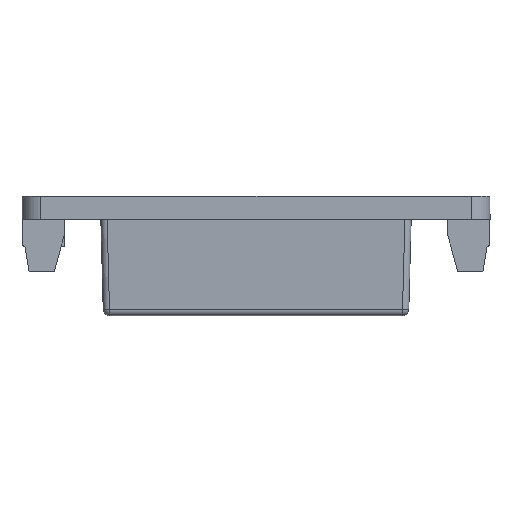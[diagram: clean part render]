
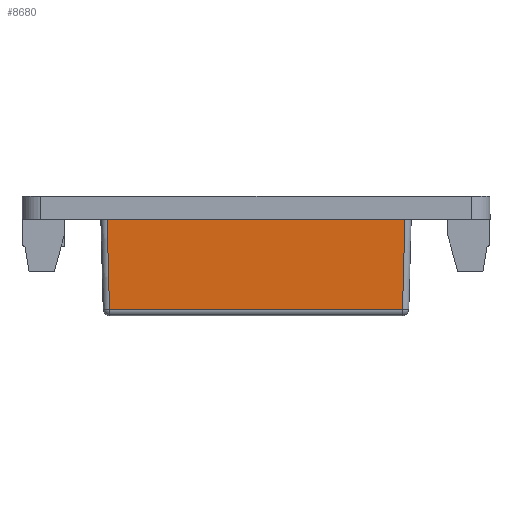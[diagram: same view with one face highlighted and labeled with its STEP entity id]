
A CAD part, left-side view. The second image highlights one B-rep face of the part: STEP entity #8680.
In plain terms, the highlighted planar face has unit normal (-1, 0, -0.026) as drawn and (0, -1, 0.026) by its records, which use the part's own axes.
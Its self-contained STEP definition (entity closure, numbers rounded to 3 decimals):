
#657=PLANE($,#9295);
#1418=LINE($,#14154,#2326);
#1490=LINE($,#14334,#2398);
#1495=LINE($,#14356,#2403);
#1497=LINE($,#14359,#2405);
#2326=VECTOR($,#11018,71.201);
#2398=VECTOR($,#11188,21.654);
#2403=VECTOR($,#11215,21.654);
#2405=VECTOR($,#11219,70.068);
#3046=FACE_OUTER_BOUND($,#3606,.T.);
#3606=EDGE_LOOP($,(#7830,#7831,#7832,#7833));
#4503=VERTEX_POINT($,#14151);
#4504=VERTEX_POINT($,#14153);
#4561=VERTEX_POINT($,#14326);
#4569=VERTEX_POINT($,#14352);
#5588=EDGE_CURVE($,#4504,#4503,#1418,.T.);
#5680=EDGE_CURVE($,#4561,#4503,#1490,.T.);
#5691=EDGE_CURVE($,#4504,#4569,#1495,.T.);
#5693=EDGE_CURVE($,#4569,#4561,#1497,.T.);
#7830=ORIENTED_EDGE($,*,*,#5680,.F.);
#7831=ORIENTED_EDGE($,*,*,#5693,.F.);
#7832=ORIENTED_EDGE($,*,*,#5691,.F.);
#7833=ORIENTED_EDGE($,*,*,#5588,.T.);
#8680=ADVANCED_FACE($,(#3046),#657,.T.);
#9295=AXIS2_PLACEMENT_3D($,#14368,#11231,#11232);
#11018=DIRECTION($,(1.,0.,0.));
#11188=DIRECTION($,(0.026,-0.026,-0.999));
#11215=DIRECTION($,(0.026,0.026,0.999));
#11219=DIRECTION($,(1.,0.,0.));
#11231=DIRECTION('center_axis',(0.,-1.,
0.026));
#11232=DIRECTION('ref_axis',(1.,0.,0.));
#14151=CARTESIAN_POINT('',(72.701,0.,0.));
#14153=CARTESIAN_POINT('',(1.499,0.,0.));
#14154=CARTESIAN_POINT($,(0.,0.,0.));
#14326=CARTESIAN_POINT('',(72.134,0.567,21.639));
#14334=CARTESIAN_POINT($,(72.685,0.015,0.575));
#14352=CARTESIAN_POINT('',(2.066,0.567,21.639));
#14356=CARTESIAN_POINT($,(1.524,0.024,0.931));
#14359=CARTESIAN_POINT($,(55.65,0.567,21.639));
#14368=CARTESIAN_POINT('Origin',(74.2,0.,0.));
